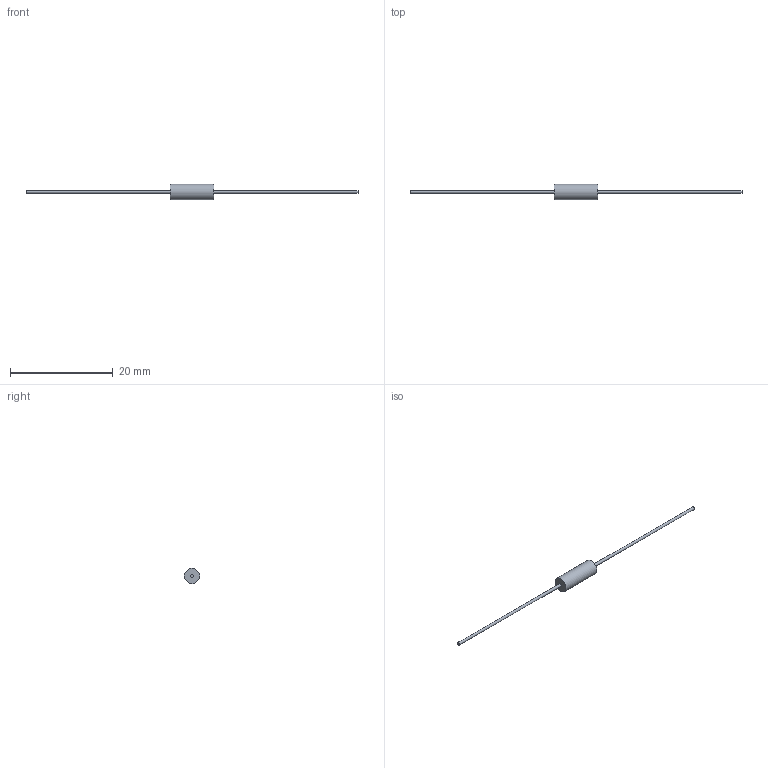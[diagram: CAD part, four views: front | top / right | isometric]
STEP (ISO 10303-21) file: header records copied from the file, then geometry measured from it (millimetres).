
FILE_DESCRIPTION(/* description */ (''),/* implementation_level */ '2;1');
FILE_NAME(/* name */ 'C:\Users\mulla\Documents\SEI Models\Inventor Files\HVA\3D\HVA08_stp.stp',/* time_stamp */ '2019-06-12T13:00:40-04:00',/* author */ ('mulla'),/* organization */ (''),/* preprocessor_version */ 'ST-DEVELOPER v16.1',/* originating_system */ 'Autodesk Inventor 2016',/* authorisation */ '');
FILE_SCHEMA (('AUTOMOTIVE_DESIGN { 1 0 10303 214 3 1 1 }'));
Length unit declared in the file: millimetre
Products named in the file (1): HVA08
Bounding box: 64.5 x 3 x 3 mm (x, y, z)
Volume: 73.4 mm3; surface area: 192 mm2
Topology: 3 solids, 3 shells, 9 faces, 9 edges, 6 vertices
Faces by surface type: plane 6, cylinder 3
Full cylindrical faces by diameter (mm): 0.55 x2, 3 x1
Entity records: 186 total; most frequent: DIRECTION 32, CARTESIAN_POINT 22, AXIS2_PLACEMENT_3D 16, EDGE_LOOP 12, ORIENTED_EDGE 12, FACE_OUTER_BOUND 9, ADVANCED_FACE 9, PLANE 6
